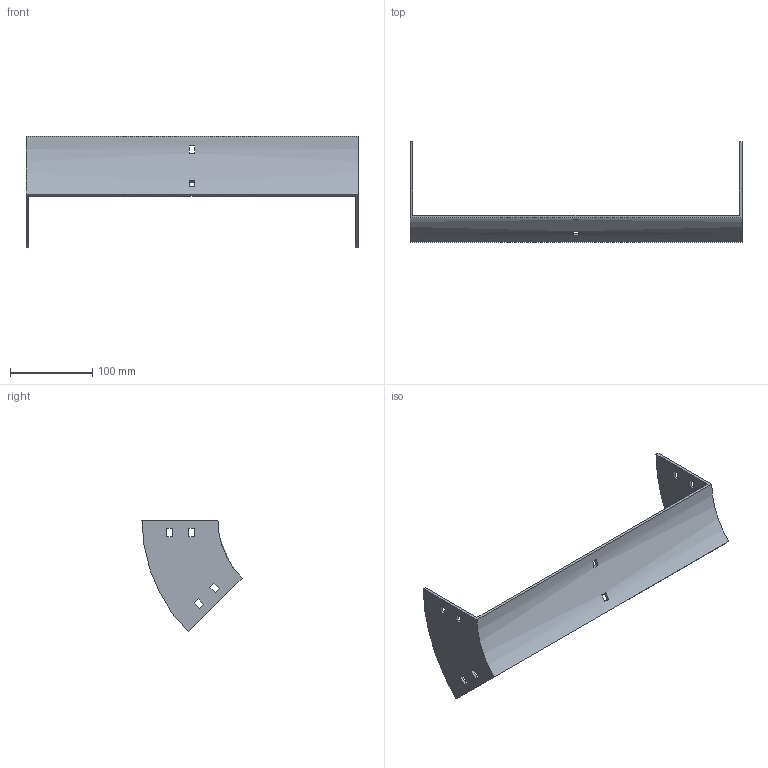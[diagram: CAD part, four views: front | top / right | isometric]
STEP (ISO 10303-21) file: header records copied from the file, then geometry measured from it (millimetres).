
FILE_DESCRIPTION (( 'STEP AP214' ), '1' );
FILE_NAME ('34B1I400.step', '2025-02-21T09:30:14', ( '' ), ( '' ), 'SwSTEP 2.0', 'SolidWorks 2023', '' );
FILE_SCHEMA (( 'AUTOMOTIVE_DESIGN' ));
Length unit declared in the file: millimetre
Products named in the file (1): 34B1I400
Bounding box: 404 x 121.79 x 136.12 mm (x, y, z)
Volume: 183040.5 mm3; surface area: 110889.3 mm2
Topology: 1 solids, 1 shells, 50 faces, 144 edges, 96 vertices
Faces by surface type: plane 46, cylinder 4
Entity records: 1687 total; most frequent: CARTESIAN_POINT 291, ORIENTED_EDGE 288, DIRECTION 262, EDGE_CURVE 144, LINE 128, VECTOR 128, VERTEX_POINT 96, EDGE_LOOP 70
